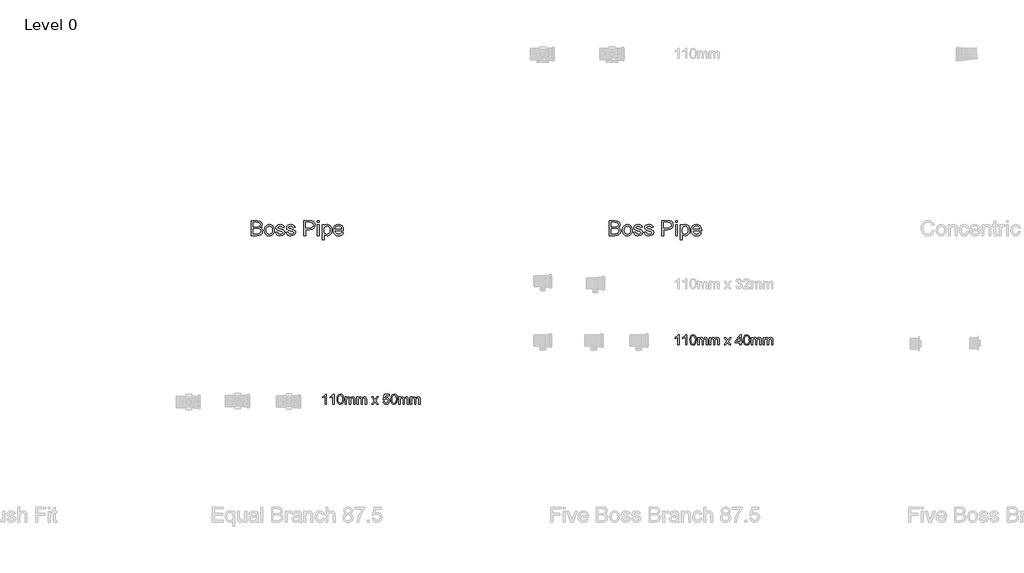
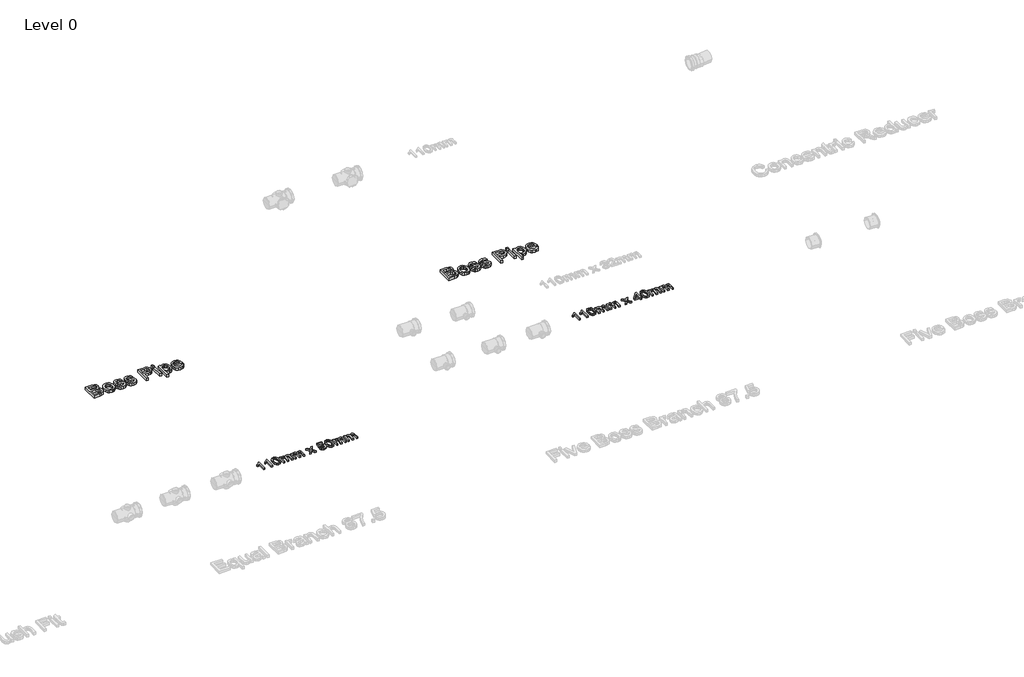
# One storey, part 13 of 23: 4 proxies.
"""IFC4 building model written with IfcOpenShell, lengths in millimetres."""

from ifc_helpers import new_model, si_unit, origin, origin_with_axes, place, context, project, spatial, polyline, outline, extrude, element, save

model = new_model("IFC4")

# Units and contexts
model_context = context("Model", 3, world=origin())
ifc_project = project(units=[si_unit("LENGTHUNIT", "METRE", prefix="MILLI")], contexts=[model_context])

# Site, building, storey
site = spatial("IfcSite", under=ifc_project)
building = spatial("IfcBuilding", under=site)
storey = spatial("IfcBuildingStorey", under=building, Name="Level 0", Elevation=0.0)

# Proxies
placement = place(None, origin())
element("IfcBuildingElementProxy", 1, Name="100mm Arial", ObjectType="100mm Arial", at=placement, inside=storey, context=model_context, shape_type="SweptSolid", body=[
    extrude(outline(polyline([(-13739.0370111, 4857.7167304), (-13751.3447034, 4857.7167304), (-13751.3447034, 4934.4474996), (-13763.0033572, 4926.1422111), (-13775.960088, 4919.9282688), (-13775.960088, 4931.5628842), (-13757.9192226, 4943.0773073), (-13746.9697034, 4956.1782688), (-13739.0370111, 4956.1782688), (-13739.0370111, 4857.7167304)])), origin_with_axes(), (0.0, 0.0, 1.0), 15.0),
    extrude(outline(polyline([(-13663.6523957, 4857.7167304), (-13675.960088, 4857.7167304), (-13675.960088, 4934.4474996), (-13687.6187418, 4926.1422111), (-13700.5754726, 4919.9282688), (-13700.5754726, 4931.5628842), (-13682.5346072, 4943.0773073), (-13671.585088, 4956.1782688), (-13663.6523957, 4956.1782688), (-13663.6523957, 4857.7167304)])), origin_with_axes(), (0.0, 0.0, 1.0), 15.0),
    extrude(outline(polyline([(-13634.4216264, 4906.1542304), (-13630.803838, 4934.4835573), (-13620.0586457, 4950.8176919), (-13602.1139341, 4956.1782688), (-13587.7389341, 4953.0051919), (-13577.8110495, 4943.8585573), (-13572.0418188, 4929.2912496), (-13569.8062418, 4906.1542304), (-13573.3879726, 4877.9450958), (-13584.0971072, 4861.5749035), (-13602.1139341, 4856.1782688), (-13614.9023957, 4858.5220188), (-13624.6139341, 4865.5532688), (-13631.9697034, 4882.2059131), (-13634.4216264, 4906.1542304)]), holes=[polyline([(-13622.1139341, 4906.1782688), (-13620.6716264, 4886.8182929), (-13616.3447034, 4875.613365), (-13609.9023957, 4870.2678121), (-13602.1139341, 4868.4859611), (-13594.3254726, 4870.2738217), (-13587.8831649, 4875.6374035), (-13583.5562418, 4886.848341), (-13582.1139341, 4906.1782688), (-13583.5081649, 4925.1025477), (-13587.6908572, 4936.394615), (-13594.1211457, 4942.0015861), (-13602.2581649, 4943.8705765), (-13609.9624918, 4942.2239419), (-13616.1523957, 4937.2840381), (-13620.6235495, 4925.2888458), (-13622.1139341, 4906.1782688)])]), origin_with_axes(), (0.0, 0.0, 1.0), 15.0),
    extrude(outline(polyline([(-13555.960088, 4857.7167304), (-13555.960088, 4930.0244227), (-13543.6523957, 4930.0244227), (-13543.6523957, 4918.1253842), (-13535.1908572, 4927.8729804), (-13523.147588, 4931.5628842), (-13510.8158572, 4927.800865), (-13504.0370111, 4917.2599996), (-13494.4336457, 4927.9871631), (-13482.3062418, 4931.5628842), (-13473.0544389, 4930.0755044), (-13466.2124918, 4925.613365), (-13461.9847274, 4918.0562736), (-13460.5754726, 4907.2840381), (-13460.5754726, 4857.7167304), (-13472.8831649, 4857.7167304), (-13472.8831649, 4901.9955765), (-13474.0249918, 4912.2720188), (-13478.1596072, 4917.332115), (-13485.1908572, 4919.2551919), (-13497.2942226, 4914.3273073), (-13502.1139341, 4898.5340381), (-13502.1139341, 4857.7167304), (-13514.4216264, 4857.7167304), (-13514.4216264, 4903.3657688), (-13517.2701841, 4915.2888458), (-13526.6091264, 4919.2551919), (-13535.7197034, 4916.6109611), (-13541.7773957, 4908.8705765), (-13543.6523957, 4894.1830765), (-13543.6523957, 4857.7167304), (-13555.960088, 4857.7167304)])), origin_with_axes(), (0.0, 0.0, 1.0), 15.0),
    extrude(outline(polyline([(-13442.1139341, 4857.7167304), (-13442.1139341, 4930.0244227), (-13429.8062418, 4930.0244227), (-13429.8062418, 4918.1253842), (-13421.3447034, 4927.8729804), (-13409.3014341, 4931.5628842), (-13396.9697034, 4927.800865), (-13390.1908572, 4917.2599996), (-13380.5874918, 4927.9871631), (-13368.460088, 4931.5628842), (-13359.2082851, 4930.0755044), (-13352.366338, 4925.613365), (-13348.1385736, 4918.0562736), (-13346.7293188, 4907.2840381), (-13346.7293188, 4857.7167304), (-13359.0370111, 4857.7167304), (-13359.0370111, 4901.9955765), (-13360.178838, 4912.2720188), (-13364.3134534, 4917.332115), (-13371.3447034, 4919.2551919), (-13383.4480688, 4914.3273073), (-13388.2677803, 4898.5340381), (-13388.2677803, 4857.7167304), (-13400.5754726, 4857.7167304), (-13400.5754726, 4903.3657688), (-13403.4240303, 4915.2888458), (-13412.7629726, 4919.2551919), (-13421.8735495, 4916.6109611), (-13427.9312418, 4908.8705765), (-13429.8062418, 4894.1830765), (-13429.8062418, 4857.7167304), (-13442.1139341, 4857.7167304)])), origin_with_axes(), (0.0, 0.0, 1.0), 15.0),
    extrude(outline(polyline([(-13297.4985495, 4857.7167304), (-13271.2004726, 4894.0628842), (-13295.960088, 4930.0244227), (-13281.1523957, 4930.0244227), (-13269.2052803, 4912.7167304), (-13263.6283572, 4904.5436535), (-13258.7966264, 4911.2263458), (-13245.1908572, 4930.0244227), (-13230.3831649, 4930.0244227), (-13256.3927803, 4894.0628842), (-13231.3447034, 4857.7167304), (-13246.1523957, 4857.7167304), (-13261.2245111, 4879.5676919), (-13263.9889341, 4883.5580765), (-13282.6908572, 4857.7167304), (-13297.4985495, 4857.7167304)])), origin_with_axes(), (0.0, 0.0, 1.0), 15.0),
    extrude(outline(polyline([(-13185.1908572, 4883.8705765), (-13172.8831649, 4885.4090381), (-13166.6812418, 4872.7287496), (-13153.8206649, 4868.4859611), (-13144.9985495, 4869.9613217), (-13138.3879726, 4874.3874035), (-13134.2593668, 4881.253389), (-13132.8831649, 4890.0484611), (-13138.0394149, 4904.6638458), (-13144.5147755, 4908.6842785), (-13153.6283572, 4910.0244227), (-13164.4336457, 4907.8849996), (-13171.3447034, 4902.332115), (-13183.6523957, 4903.8705765), (-13172.8831649, 4954.6398073), (-13125.1908572, 4954.6398073), (-13125.1908572, 4942.332115), (-13162.9312418, 4942.332115), (-13168.1956649, 4915.2167304), (-13159.4035976, 4920.5532688), (-13150.1908572, 4922.332115), (-13138.6914582, 4920.1265861), (-13129.1451841, 4913.5099996), (-13122.7179005, 4903.425865), (-13120.5754726, 4890.8176919), (-13122.5045591, 4878.5099996), (-13128.2918188, 4867.9811535), (-13139.3735495, 4859.12899), (-13153.8687418, 4856.1782688), (-13165.9570832, 4858.0743025), (-13175.5874918, 4863.7624035), (-13182.1890543, 4872.581514), (-13185.1908572, 4883.8705765)])), origin_with_axes(), (0.0, 0.0, 1.0), 15.0),
    extrude(outline(polyline([(-13109.8062418, 4906.1542304), (-13106.1884534, 4934.4835573), (-13095.4432611, 4950.8176919), (-13077.4985495, 4956.1782688), (-13063.1235495, 4953.0051919), (-13053.1956649, 4943.8585573), (-13047.4264341, 4929.2912496), (-13045.1908572, 4906.1542304), (-13048.772588, 4877.9450958), (-13059.4817226, 4861.5749035), (-13077.4985495, 4856.1782688), (-13090.2870111, 4858.5220188), (-13099.9985495, 4865.5532688), (-13107.3543188, 4882.2059131), (-13109.8062418, 4906.1542304)]), holes=[polyline([(-13097.4985495, 4906.1782688), (-13096.0562418, 4886.8182929), (-13091.7293188, 4875.613365), (-13085.2870111, 4870.2678121), (-13077.4985495, 4868.4859611), (-13069.710088, 4870.2738217), (-13063.2677803, 4875.6374035), (-13058.9408572, 4886.848341), (-13057.4985495, 4906.1782688), (-13058.8927803, 4925.1025477), (-13063.0754726, 4936.394615), (-13069.5057611, 4942.0015861), (-13077.6427803, 4943.8705765), (-13085.3471072, 4942.2239419), (-13091.5370111, 4937.2840381), (-13096.0081649, 4925.2888458), (-13097.4985495, 4906.1782688)])]), origin_with_axes(), (0.0, 0.0, 1.0), 15.0),
    extrude(outline(polyline([(-13031.3447034, 4857.7167304), (-13031.3447034, 4930.0244227), (-13019.0370111, 4930.0244227), (-13019.0370111, 4918.1253842), (-13010.5754726, 4927.8729804), (-12998.5322034, 4931.5628842), (-12986.2004726, 4927.800865), (-12979.4216264, 4917.2599996), (-12969.8182611, 4927.9871631), (-12957.6908572, 4931.5628842), (-12948.4390543, 4930.0755044), (-12941.5971072, 4925.613365), (-12937.3693428, 4918.0562736), (-12935.960088, 4907.2840381), (-12935.960088, 4857.7167304), (-12948.2677803, 4857.7167304), (-12948.2677803, 4901.9955765), (-12949.4096072, 4912.2720188), (-12953.5442226, 4917.332115), (-12960.5754726, 4919.2551919), (-12972.678838, 4914.3273073), (-12977.4985495, 4898.5340381), (-12977.4985495, 4857.7167304), (-12989.8062418, 4857.7167304), (-12989.8062418, 4903.3657688), (-12992.6547995, 4915.2888458), (-13001.9937418, 4919.2551919), (-13011.1043188, 4916.6109611), (-13017.1620111, 4908.8705765), (-13019.0370111, 4894.1830765), (-13019.0370111, 4857.7167304), (-13031.3447034, 4857.7167304)])), origin_with_axes(), (0.0, 0.0, 1.0), 15.0),
    extrude(outline(polyline([(-12917.4985495, 4857.7167304), (-12917.4985495, 4930.0244227), (-12905.1908572, 4930.0244227), (-12905.1908572, 4918.1253842), (-12896.7293188, 4927.8729804), (-12884.6860495, 4931.5628842), (-12872.3543188, 4927.800865), (-12865.5754726, 4917.2599996), (-12855.9721072, 4927.9871631), (-12843.8447034, 4931.5628842), (-12834.5929005, 4930.0755044), (-12827.7509534, 4925.613365), (-12823.5231889, 4918.0562736), (-12822.1139341, 4907.2840381), (-12822.1139341, 4857.7167304), (-12834.4216264, 4857.7167304), (-12834.4216264, 4901.9955765), (-12835.5634534, 4912.2720188), (-12839.6980688, 4917.332115), (-12846.7293188, 4919.2551919), (-12858.8326841, 4914.3273073), (-12863.6523957, 4898.5340381), (-12863.6523957, 4857.7167304), (-12875.960088, 4857.7167304), (-12875.960088, 4903.3657688), (-12878.8086457, 4915.2888458), (-12888.147588, 4919.2551919), (-12897.2581649, 4916.6109611), (-12903.3158572, 4908.8705765), (-12905.1908572, 4894.1830765), (-12905.1908572, 4857.7167304), (-12917.4985495, 4857.7167304)])), origin_with_axes(), (0.0, 0.0, 1.0), 15.0),
])
element("IfcBuildingElementProxy", 2, Name="100mm Arial", ObjectType="100mm Arial", at=placement, inside=storey, context=model_context, shape_type="SweptSolid", body=[
    extrude(outline(polyline([(-10291.7293188, 5437.7167304), (-10304.0370111, 5437.7167304), (-10304.0370111, 5514.4474996), (-10315.6956649, 5506.1422111), (-10328.6523957, 5499.9282688), (-10328.6523957, 5511.5628842), (-10310.6115303, 5523.0773073), (-10299.6620111, 5536.1782688), (-10291.7293188, 5536.1782688), (-10291.7293188, 5437.7167304)])), origin_with_axes(), (0.0, 0.0, 1.0), 15.0),
    extrude(outline(polyline([(-10216.3447034, 5437.7167304), (-10228.6523957, 5437.7167304), (-10228.6523957, 5514.4474996), (-10240.3110495, 5506.1422111), (-10253.2677803, 5499.9282688), (-10253.2677803, 5511.5628842), (-10235.2269149, 5523.0773073), (-10224.2773957, 5536.1782688), (-10216.3447034, 5536.1782688), (-10216.3447034, 5437.7167304)])), origin_with_axes(), (0.0, 0.0, 1.0), 15.0),
    extrude(outline(polyline([(-10187.1139341, 5486.1542304), (-10183.4961457, 5514.4835573), (-10172.7509534, 5530.8176919), (-10154.8062418, 5536.1782688), (-10140.4312418, 5533.0051919), (-10130.5033572, 5523.8585573), (-10124.7341264, 5509.2912496), (-10122.4985495, 5486.1542304), (-10126.0802803, 5457.9450958), (-10136.7894149, 5441.5749035), (-10154.8062418, 5436.1782688), (-10167.5947034, 5438.5220188), (-10177.3062418, 5445.5532688), (-10184.6620111, 5462.2059131), (-10187.1139341, 5486.1542304)]), holes=[polyline([(-10174.8062418, 5486.1782688), (-10173.3639341, 5466.8182929), (-10169.0370111, 5455.613365), (-10162.5947034, 5450.2678121), (-10154.8062418, 5448.4859611), (-10147.0177803, 5450.2738217), (-10140.5754726, 5455.6374035), (-10136.2485495, 5466.848341), (-10134.8062418, 5486.1782688), (-10136.2004726, 5505.1025477), (-10140.3831649, 5516.394615), (-10146.8134534, 5522.0015861), (-10154.9504726, 5523.8705765), (-10162.6547995, 5522.2239419), (-10168.8447034, 5517.2840381), (-10173.3158572, 5505.2888458), (-10174.8062418, 5486.1782688)])]), origin_with_axes(), (0.0, 0.0, 1.0), 15.0),
    extrude(outline(polyline([(-10108.6523957, 5437.7167304), (-10108.6523957, 5510.0244227), (-10096.3447034, 5510.0244227), (-10096.3447034, 5498.1253842), (-10087.8831649, 5507.8729804), (-10075.8398957, 5511.5628842), (-10063.5081649, 5507.800865), (-10056.7293188, 5497.2599996), (-10047.1259534, 5507.9871631), (-10034.9985495, 5511.5628842), (-10025.7467466, 5510.0755044), (-10018.9047995, 5505.613365), (-10014.6770351, 5498.0562736), (-10013.2677803, 5487.2840381), (-10013.2677803, 5437.7167304), (-10025.5754726, 5437.7167304), (-10025.5754726, 5481.9955765), (-10026.7172995, 5492.2720188), (-10030.8519149, 5497.332115), (-10037.8831649, 5499.2551919), (-10049.9865303, 5494.3273073), (-10054.8062418, 5478.5340381), (-10054.8062418, 5437.7167304), (-10067.1139341, 5437.7167304), (-10067.1139341, 5483.3657688), (-10069.9624918, 5495.2888458), (-10079.3014341, 5499.2551919), (-10088.4120111, 5496.6109611), (-10094.4697034, 5488.8705765), (-10096.3447034, 5474.1830765), (-10096.3447034, 5437.7167304), (-10108.6523957, 5437.7167304)])), origin_with_axes(), (0.0, 0.0, 1.0), 15.0),
    extrude(outline(polyline([(-9994.8062418, 5437.7167304), (-9994.8062418, 5510.0244227), (-9982.4985495, 5510.0244227), (-9982.4985495, 5498.1253842), (-9974.0370111, 5507.8729804), (-9961.9937418, 5511.5628842), (-9949.6620111, 5507.800865), (-9942.8831649, 5497.2599996), (-9933.2797995, 5507.9871631), (-9921.1523957, 5511.5628842), (-9911.9005928, 5510.0755044), (-9905.0586457, 5505.613365), (-9900.8308813, 5498.0562736), (-9899.4216264, 5487.2840381), (-9899.4216264, 5437.7167304), (-9911.7293188, 5437.7167304), (-9911.7293188, 5481.9955765), (-9912.8711457, 5492.2720188), (-9917.0057611, 5497.332115), (-9924.0370111, 5499.2551919), (-9936.1403764, 5494.3273073), (-9940.960088, 5478.5340381), (-9940.960088, 5437.7167304), (-9953.2677803, 5437.7167304), (-9953.2677803, 5483.3657688), (-9956.116338, 5495.2888458), (-9965.4552803, 5499.2551919), (-9974.5658572, 5496.6109611), (-9980.6235495, 5488.8705765), (-9982.4985495, 5474.1830765), (-9982.4985495, 5437.7167304), (-9994.8062418, 5437.7167304)])), origin_with_axes(), (0.0, 0.0, 1.0), 15.0),
    extrude(outline(polyline([(-9850.1908572, 5437.7167304), (-9823.8927803, 5474.0628842), (-9848.6523957, 5510.0244227), (-9833.8447034, 5510.0244227), (-9821.897588, 5492.7167304), (-9816.3206649, 5484.5436535), (-9811.4889341, 5491.2263458), (-9797.8831649, 5510.0244227), (-9783.0754726, 5510.0244227), (-9809.085088, 5474.0628842), (-9784.0370111, 5437.7167304), (-9798.8447034, 5437.7167304), (-9813.9168188, 5459.5676919), (-9816.6812418, 5463.5580765), (-9835.3831649, 5437.7167304), (-9850.1908572, 5437.7167304)])), origin_with_axes(), (0.0, 0.0, 1.0), 15.0),
    extrude(outline(polyline([(-9697.8831649, 5437.7167304), (-9697.8831649, 5460.7936535), (-9742.4985495, 5460.7936535), (-9742.4985495, 5473.1013458), (-9694.8062418, 5534.6398073), (-9685.5754726, 5534.6398073), (-9685.5754726, 5473.1013458), (-9673.2677803, 5473.1013458), (-9673.2677803, 5460.7936535), (-9685.5754726, 5460.7936535), (-9685.5754726, 5437.7167304), (-9697.8831649, 5437.7167304)]), holes=[polyline([(-9697.8831649, 5473.1013458), (-9697.8831649, 5511.1301919), (-9727.3543188, 5473.1013458), (-9697.8831649, 5473.1013458)])]), origin_with_axes(), (0.0, 0.0, 1.0), 15.0),
    extrude(outline(polyline([(-9662.4985495, 5486.1542304), (-9658.8807611, 5514.4835573), (-9648.1355688, 5530.8176919), (-9630.1908572, 5536.1782688), (-9615.8158572, 5533.0051919), (-9605.8879726, 5523.8585573), (-9600.1187418, 5509.2912496), (-9597.8831649, 5486.1542304), (-9601.4648957, 5457.9450958), (-9612.1740303, 5441.5749035), (-9630.1908572, 5436.1782688), (-9642.9793188, 5438.5220188), (-9652.6908572, 5445.5532688), (-9660.0466264, 5462.2059131), (-9662.4985495, 5486.1542304)]), holes=[polyline([(-9650.1908572, 5486.1782688), (-9648.7485495, 5466.8182929), (-9644.4216264, 5455.613365), (-9637.9793188, 5450.2678121), (-9630.1908572, 5448.4859611), (-9622.4023957, 5450.2738217), (-9615.960088, 5455.6374035), (-9611.6331649, 5466.848341), (-9610.1908572, 5486.1782688), (-9611.585088, 5505.1025477), (-9615.7677803, 5516.394615), (-9622.1980688, 5522.0015861), (-9630.335088, 5523.8705765), (-9638.0394149, 5522.2239419), (-9644.2293188, 5517.2840381), (-9648.7004726, 5505.2888458), (-9650.1908572, 5486.1782688)])]), origin_with_axes(), (0.0, 0.0, 1.0), 15.0),
    extrude(outline(polyline([(-9584.0370111, 5437.7167304), (-9584.0370111, 5510.0244227), (-9571.7293188, 5510.0244227), (-9571.7293188, 5498.1253842), (-9563.2677803, 5507.8729804), (-9551.2245111, 5511.5628842), (-9538.8927803, 5507.800865), (-9532.1139341, 5497.2599996), (-9522.5105688, 5507.9871631), (-9510.3831649, 5511.5628842), (-9501.131362, 5510.0755044), (-9494.2894149, 5505.613365), (-9490.0616505, 5498.0562736), (-9488.6523957, 5487.2840381), (-9488.6523957, 5437.7167304), (-9500.960088, 5437.7167304), (-9500.960088, 5481.9955765), (-9502.1019149, 5492.2720188), (-9506.2365303, 5497.332115), (-9513.2677803, 5499.2551919), (-9525.3711457, 5494.3273073), (-9530.1908572, 5478.5340381), (-9530.1908572, 5437.7167304), (-9542.4985495, 5437.7167304), (-9542.4985495, 5483.3657688), (-9545.3471072, 5495.2888458), (-9554.6860495, 5499.2551919), (-9563.7966264, 5496.6109611), (-9569.8543188, 5488.8705765), (-9571.7293188, 5474.1830765), (-9571.7293188, 5437.7167304), (-9584.0370111, 5437.7167304)])), origin_with_axes(), (0.0, 0.0, 1.0), 15.0),
    extrude(outline(polyline([(-9470.1908572, 5437.7167304), (-9470.1908572, 5510.0244227), (-9457.8831649, 5510.0244227), (-9457.8831649, 5498.1253842), (-9449.4216264, 5507.8729804), (-9437.3783572, 5511.5628842), (-9425.0466264, 5507.800865), (-9418.2677803, 5497.2599996), (-9408.6644149, 5507.9871631), (-9396.5370111, 5511.5628842), (-9387.2852082, 5510.0755044), (-9380.4432611, 5505.613365), (-9376.2154966, 5498.0562736), (-9374.8062418, 5487.2840381), (-9374.8062418, 5437.7167304), (-9387.1139341, 5437.7167304), (-9387.1139341, 5481.9955765), (-9388.2557611, 5492.2720188), (-9392.3903764, 5497.332115), (-9399.4216264, 5499.2551919), (-9411.5249918, 5494.3273073), (-9416.3447034, 5478.5340381), (-9416.3447034, 5437.7167304), (-9428.6523957, 5437.7167304), (-9428.6523957, 5483.3657688), (-9431.5009534, 5495.2888458), (-9440.8398957, 5499.2551919), (-9449.9504726, 5496.6109611), (-9456.0081649, 5488.8705765), (-9457.8831649, 5474.1830765), (-9457.8831649, 5437.7167304), (-9470.1908572, 5437.7167304)])), origin_with_axes(), (0.0, 0.0, 1.0), 15.0),
])
element("IfcBuildingElementProxy", 3, Name="150mm Arial", ObjectType="150mm Arial", at=placement, inside=storey, context=model_context, shape_type="SweptSolid", body=[
    extrude(outline(polyline([(-14474.4510666, 6505.2145219), (-14474.4510666, 6652.9068296), (-14418.0928935, 6652.9068296), (-14390.49073, 6648.5618777), (-14381.2148887, 6643.049558), (-14374.1926531, 6635.2025027), (-14368.2972204, 6616.3082719), (-14373.2551531, 6599.0546661), (-14388.2371243, 6585.9837527), (-14377.7758863, 6580.5210123), (-14370.0460185, 6572.2097142), (-14365.2728815, 6561.5997383), (-14363.6818358, 6549.2409642), (-14368.0267877, 6529.3912046), (-14378.7900089, 6515.2565892), (-14394.8537108, 6507.7565892), (-14418.5255858, 6505.2145219), (-14474.4510666, 6505.2145219)]), holes=[polyline([(-14455.9895281, 6523.6760604), (-14418.1289512, 6523.6760604), (-14404.4270281, 6524.3972142), (-14392.83448, 6528.4176469), (-14385.1541916, 6536.6207719), (-14382.1433743, 6549.0606758), (-14385.6770281, 6563.4116373), (-14397.1253454, 6571.9753392), (-14419.9318358, 6574.4452911), (-14455.9895281, 6574.4452911), (-14455.9895281, 6523.6760604)]), polyline([(-14455.9895281, 6592.9068296), (-14422.2755858, 6592.9068296), (-14402.5880858, 6594.4933681), (-14390.7431339, 6601.3263008), (-14386.7587589, 6613.3515411), (-14390.4727012, 6625.3948104), (-14401.1097204, 6632.5162046), (-14424.835682, 6634.4452911), (-14455.9895281, 6634.4452911), (-14455.9895281, 6592.9068296)])]), origin_with_axes(), (0.0, 0.0, 1.0), 25.0),
    extrude(outline(polyline([(-14345.2202973, 6559.4452911), (-14341.2269079, 6585.5961325), (-14329.2467397, 6603.9765411), (-14314.445057, 6612.9819498), (-14296.7227012, 6615.9837527), (-14277.3281699, 6612.3284041), (-14261.8368839, 6601.3623585), (-14251.6821363, 6583.9510003), (-14248.2972204, 6560.9597142), (-14249.7936147, 6542.3088729), (-14254.2827973, 6528.1111565), (-14261.6340594, 6517.4786445), (-14271.7166916, 6509.5234161), (-14283.6923526, 6504.5609762), (-14296.7227012, 6502.9068296), (-14316.3516074, 6506.5486565), (-14331.8248647, 6517.4741373), (-14341.8714392, 6535.2505796), (-14345.2202973, 6559.4452911)]), holes=[polyline([(-14326.7587589, 6559.4813488), (-14324.6223406, 6542.7731157), (-14318.2130858, 6530.86957), (-14308.5676531, 6523.7436686), (-14296.7227012, 6521.3683681), (-14284.9318358, 6523.7571902), (-14275.304432, 6530.9236565), (-14268.8951772, 6542.9849546), (-14266.7587589, 6560.0582719), (-14268.9086988, 6576.2797262), (-14275.3585185, 6588.0210123), (-14284.999444, 6595.1469137), (-14296.7227012, 6597.5222142), (-14308.5676531, 6595.1559282), (-14318.2130858, 6588.05707), (-14324.6223406, 6576.1805676), (-14326.7587589, 6559.4813488)])]), origin_with_axes(), (0.0, 0.0, 1.0), 25.0),
    extrude(outline(polyline([(-14234.4510666, 6537.5222142), (-14215.9895281, 6539.8299065), (-14213.0778695, 6531.9332719), (-14207.443855, 6526.1279835), (-14187.8645281, 6521.3683681), (-14169.0424127, 6525.7313488), (-14162.912605, 6535.9717335), (-14169.0784704, 6544.2650027), (-14188.0808743, 6549.5294258), (-14215.881355, 6558.5618777), (-14228.0147685, 6569.1087527), (-14232.1433743, 6584.0005796), (-14228.8260666, 6597.7565892), (-14219.7755858, 6608.2674065), (-14208.038807, 6613.7301469), (-14192.1553935, 6615.9837527), (-14169.6914512, 6612.3599546), (-14155.412605, 6602.5522623), (-14149.0664512, 6585.9837527), (-14167.5279897, 6583.6760604), (-14174.4690954, 6593.8623585), (-14190.7130858, 6597.5222142), (-14208.381355, 6594.0246181), (-14213.6818358, 6585.8755796), (-14211.4823166, 6580.5029835), (-14204.5952973, 6576.4284642), (-14188.693855, 6572.4981758), (-14161.5964993, 6563.8082719), (-14149.0123647, 6553.9645219), (-14144.4510666, 6537.9188488), (-14149.8056339, 6520.2505796), (-14165.256355, 6507.43207), (-14188.116932, 6502.9068296), (-14206.7317156, 6505.08832), (-14220.3164512, 6511.6327911), (-14229.3849608, 6522.4681277), (-14234.4510666, 6537.5222142)])), origin_with_axes(), (0.0, 0.0, 1.0), 25.0),
    extrude(outline(polyline([(-14130.6049127, 6537.5222142), (-14112.1433743, 6539.8299065), (-14109.2317156, 6531.9332719), (-14103.5977012, 6526.1279835), (-14084.0183743, 6521.3683681), (-14065.1962589, 6525.7313488), (-14059.0664512, 6535.9717335), (-14065.2323166, 6544.2650027), (-14084.2347204, 6549.5294258), (-14112.0352012, 6558.5618777), (-14124.1686147, 6569.1087527), (-14128.2972204, 6584.0005796), (-14124.9799127, 6597.7565892), (-14115.929432, 6608.2674065), (-14104.1926531, 6613.7301469), (-14088.3092397, 6615.9837527), (-14065.8452973, 6612.3599546), (-14051.5664512, 6602.5522623), (-14045.2202973, 6585.9837527), (-14063.6818358, 6583.6760604), (-14070.6229416, 6593.8623585), (-14086.866932, 6597.5222142), (-14104.5352012, 6594.0246181), (-14109.835682, 6585.8755796), (-14107.6361627, 6580.5029835), (-14100.7491435, 6576.4284642), (-14084.8477012, 6572.4981758), (-14057.7503454, 6563.8082719), (-14045.1662108, 6553.9645219), (-14040.6049127, 6537.9188488), (-14045.95948, 6520.2505796), (-14061.4102012, 6507.43207), (-14084.2707781, 6502.9068296), (-14102.8855618, 6505.08832), (-14116.4702973, 6511.6327911), (-14125.538807, 6522.4681277), (-14130.6049127, 6537.5222142)])), origin_with_axes(), (0.0, 0.0, 1.0), 25.0),
    extrude(outline(polyline([(-13959.835682, 6505.2145219), (-13959.835682, 6652.9068296), (-13905.100105, 6652.9068296), (-13883.0327973, 6651.5005796), (-13865.0940954, 6644.5955315), (-13853.4654897, 6630.3166854), (-13849.0664512, 6610.1784642), (-13852.0367036, 6592.7716133), (-13860.9474608, 6578.2674065), (-13877.6106219, 6568.4777431), (-13903.8380858, 6565.2145219), (-13941.3741435, 6565.2145219), (-13941.3741435, 6505.2145219), (-13959.835682, 6505.2145219)]), holes=[polyline([(-13941.3741435, 6583.6760604), (-13902.756355, 6583.6760604), (-13886.3861627, 6585.3707719), (-13875.568855, 6590.4549065), (-13869.538206, 6598.6129594), (-13867.5279897, 6609.5294258), (-13872.2695762, 6624.8178873), (-13884.7275089, 6633.1832719), (-13903.1890473, 6634.4452911), (-13941.3741435, 6634.4452911), (-13941.3741435, 6583.6760604)])]), origin_with_axes(), (0.0, 0.0, 1.0), 25.0),
    extrude(outline(polyline([(-13825.9895281, 6634.4452911), (-13825.9895281, 6652.9068296), (-13807.5279897, 6652.9068296), (-13807.5279897, 6634.4452911), (-13825.9895281, 6634.4452911)])), origin_with_axes(), (0.0, 0.0, 1.0), 25.0),
    extrude(outline(polyline([(-13825.9895281, 6505.2145219), (-13825.9895281, 6613.6760604), (-13807.5279897, 6613.6760604), (-13807.5279897, 6505.2145219), (-13825.9895281, 6505.2145219)])), origin_with_axes(), (0.0, 0.0, 1.0), 25.0),
    extrude(outline(polyline([(-13779.835682, 6463.6760604), (-13779.835682, 6613.6760604), (-13761.3741435, 6613.6760604), (-13761.3741435, 6595.5750988), (-13748.6097204, 6610.8815892), (-13731.3741435, 6615.9837527), (-13718.8891675, 6614.1988969), (-13707.9727012, 6608.8443296), (-13699.08448, 6600.24457), (-13692.6842397, 6588.7241373), (-13687.5279897, 6560.2746181), (-13688.983819, 6544.4858561), (-13693.351307, 6530.3647623), (-13700.49073, 6518.6279835), (-13710.2623647, 6509.9921661), (-13721.6430738, 6504.6781637), (-13733.6097204, 6502.9068296), (-13749.6734223, 6507.6484161), (-13761.3741435, 6519.6375988), (-13761.3741435, 6463.6760604), (-13779.835682, 6463.6760604)]), holes=[polyline([(-13761.3741435, 6558.5799065), (-13759.3774488, 6542.0294258), (-13753.3873647, 6530.4549065), (-13744.5487228, 6523.6400027), (-13734.006355, 6521.3683681), (-13723.2927132, 6523.7211325), (-13714.2287108, 6530.7794258), (-13708.0493238, 6542.7776229), (-13705.9895281, 6559.9500988), (-13707.9997445, 6576.4104354), (-13714.0303935, 6588.1472142), (-13722.8555137, 6595.1784642), (-13733.2491435, 6597.5222142), (-13743.6833382, 6595.0297262), (-13752.8464993, 6587.5522623), (-13759.2422324, 6575.3241974), (-13761.3741435, 6558.5799065)])]), origin_with_axes(), (0.0, 0.0, 1.0), 25.0),
    extrude(outline(polyline([(-13590.8212589, 6537.5222142), (-13572.7202973, 6535.2145219), (-13579.2422324, 6521.5756998), (-13589.6493839, 6511.3803873), (-13603.7073767, 6505.025219), (-13621.1818358, 6502.9068296), (-13642.8434945, 6506.5621782), (-13659.5111627, 6517.5282238), (-13670.1391675, 6535.0928272), (-13673.6818358, 6558.5438488), (-13670.1031098, 6582.7836325), (-13659.366932, 6600.9116373), (-13642.9246243, 6612.2157238), (-13622.2275089, 6615.9837527), (-13602.1749247, 6612.2247383), (-13586.1517877, 6600.947695), (-13575.6454776, 6582.8557479), (-13572.1433743, 6558.6520219), (-13572.2515473, 6553.6760604), (-13655.2202973, 6553.6760604), (-13652.0246844, 6539.8569498), (-13644.601307, 6529.697695), (-13633.8876651, 6523.4506998), (-13620.8212589, 6521.3683681), (-13602.7202973, 6525.2265411), (-13590.8212589, 6537.5222142)]), holes=[polyline([(-13655.2202973, 6572.1375988), (-13590.6049127, 6572.1375988), (-13593.1019079, 6581.8912046), (-13597.9967397, 6588.8683681), (-13608.7599608, 6595.3587527), (-13622.2996243, 6597.5222142), (-13634.7440353, 6595.7959522), (-13645.0339993, 6590.6171661), (-13652.186944, 6582.5447503), (-13655.2202973, 6572.1375988)])]), origin_with_axes(), (0.0, 0.0, 1.0), 25.0),
])
element("IfcBuildingElementProxy", 4, Name="150mm Arial", ObjectType="150mm Arial", at=placement, inside=storey, context=model_context, shape_type="SweptSolid", body=[
    extrude(outline(polyline([(-10974.4510666, 6505.2145219), (-10974.4510666, 6652.9068296), (-10918.0928935, 6652.9068296), (-10890.49073, 6648.5618777), (-10881.2148887, 6643.049558), (-10874.1926531, 6635.2025027), (-10868.2972204, 6616.3082719), (-10873.2551531, 6599.0546661), (-10888.2371243, 6585.9837527), (-10877.7758863, 6580.5210123), (-10870.0460185, 6572.2097142), (-10865.2728815, 6561.5997383), (-10863.6818358, 6549.2409642), (-10868.0267877, 6529.3912046), (-10878.7900089, 6515.2565892), (-10894.8537108, 6507.7565892), (-10918.5255858, 6505.2145219), (-10974.4510666, 6505.2145219)]), holes=[polyline([(-10955.9895281, 6523.6760604), (-10918.1289512, 6523.6760604), (-10904.4270281, 6524.3972142), (-10892.83448, 6528.4176469), (-10885.1541916, 6536.6207719), (-10882.1433743, 6549.0606758), (-10885.6770281, 6563.4116373), (-10897.1253454, 6571.9753392), (-10919.9318358, 6574.4452911), (-10955.9895281, 6574.4452911), (-10955.9895281, 6523.6760604)]), polyline([(-10955.9895281, 6592.9068296), (-10922.2755858, 6592.9068296), (-10902.5880858, 6594.4933681), (-10890.7431339, 6601.3263008), (-10886.7587589, 6613.3515411), (-10890.4727012, 6625.3948104), (-10901.1097204, 6632.5162046), (-10924.835682, 6634.4452911), (-10955.9895281, 6634.4452911), (-10955.9895281, 6592.9068296)])]), origin_with_axes(), (0.0, 0.0, 1.0), 25.0),
    extrude(outline(polyline([(-10845.2202973, 6559.4452911), (-10841.2269079, 6585.5961325), (-10829.2467397, 6603.9765411), (-10814.445057, 6612.9819498), (-10796.7227012, 6615.9837527), (-10777.3281699, 6612.3284041), (-10761.8368839, 6601.3623585), (-10751.6821363, 6583.9510003), (-10748.2972204, 6560.9597142), (-10749.7936147, 6542.3088729), (-10754.2827973, 6528.1111565), (-10761.6340594, 6517.4786445), (-10771.7166916, 6509.5234161), (-10783.6923526, 6504.5609762), (-10796.7227012, 6502.9068296), (-10816.3516074, 6506.5486565), (-10831.8248647, 6517.4741373), (-10841.8714392, 6535.2505796), (-10845.2202973, 6559.4452911)]), holes=[polyline([(-10826.7587589, 6559.4813488), (-10824.6223406, 6542.7731157), (-10818.2130858, 6530.86957), (-10808.5676531, 6523.7436686), (-10796.7227012, 6521.3683681), (-10784.9318358, 6523.7571902), (-10775.304432, 6530.9236565), (-10768.8951772, 6542.9849546), (-10766.7587589, 6560.0582719), (-10768.9086988, 6576.2797262), (-10775.3585185, 6588.0210123), (-10784.999444, 6595.1469137), (-10796.7227012, 6597.5222142), (-10808.5676531, 6595.1559282), (-10818.2130858, 6588.05707), (-10824.6223406, 6576.1805676), (-10826.7587589, 6559.4813488)])]), origin_with_axes(), (0.0, 0.0, 1.0), 25.0),
    extrude(outline(polyline([(-10734.4510666, 6537.5222142), (-10715.9895281, 6539.8299065), (-10713.0778695, 6531.9332719), (-10707.443855, 6526.1279835), (-10687.8645281, 6521.3683681), (-10669.0424127, 6525.7313488), (-10662.912605, 6535.9717335), (-10669.0784704, 6544.2650027), (-10688.0808743, 6549.5294258), (-10715.881355, 6558.5618777), (-10728.0147685, 6569.1087527), (-10732.1433743, 6584.0005796), (-10728.8260666, 6597.7565892), (-10719.7755858, 6608.2674065), (-10708.038807, 6613.7301469), (-10692.1553935, 6615.9837527), (-10669.6914512, 6612.3599546), (-10655.412605, 6602.5522623), (-10649.0664512, 6585.9837527), (-10667.5279897, 6583.6760604), (-10674.4690954, 6593.8623585), (-10690.7130858, 6597.5222142), (-10708.381355, 6594.0246181), (-10713.6818358, 6585.8755796), (-10711.4823166, 6580.5029835), (-10704.5952973, 6576.4284642), (-10688.693855, 6572.4981758), (-10661.5964993, 6563.8082719), (-10649.0123647, 6553.9645219), (-10644.4510666, 6537.9188488), (-10649.8056339, 6520.2505796), (-10665.256355, 6507.43207), (-10688.116932, 6502.9068296), (-10706.7317156, 6505.08832), (-10720.3164512, 6511.6327911), (-10729.3849608, 6522.4681277), (-10734.4510666, 6537.5222142)])), origin_with_axes(), (0.0, 0.0, 1.0), 25.0),
    extrude(outline(polyline([(-10630.6049127, 6537.5222142), (-10612.1433743, 6539.8299065), (-10609.2317156, 6531.9332719), (-10603.5977012, 6526.1279835), (-10584.0183743, 6521.3683681), (-10565.1962589, 6525.7313488), (-10559.0664512, 6535.9717335), (-10565.2323166, 6544.2650027), (-10584.2347204, 6549.5294258), (-10612.0352012, 6558.5618777), (-10624.1686147, 6569.1087527), (-10628.2972204, 6584.0005796), (-10624.9799127, 6597.7565892), (-10615.929432, 6608.2674065), (-10604.1926531, 6613.7301469), (-10588.3092397, 6615.9837527), (-10565.8452973, 6612.3599546), (-10551.5664512, 6602.5522623), (-10545.2202973, 6585.9837527), (-10563.6818358, 6583.6760604), (-10570.6229416, 6593.8623585), (-10586.866932, 6597.5222142), (-10604.5352012, 6594.0246181), (-10609.835682, 6585.8755796), (-10607.6361627, 6580.5029835), (-10600.7491435, 6576.4284642), (-10584.8477012, 6572.4981758), (-10557.7503454, 6563.8082719), (-10545.1662108, 6553.9645219), (-10540.6049127, 6537.9188488), (-10545.95948, 6520.2505796), (-10561.4102012, 6507.43207), (-10584.2707781, 6502.9068296), (-10602.8855618, 6505.08832), (-10616.4702973, 6511.6327911), (-10625.538807, 6522.4681277), (-10630.6049127, 6537.5222142)])), origin_with_axes(), (0.0, 0.0, 1.0), 25.0),
    extrude(outline(polyline([(-10459.835682, 6505.2145219), (-10459.835682, 6652.9068296), (-10405.100105, 6652.9068296), (-10383.0327973, 6651.5005796), (-10365.0940954, 6644.5955315), (-10353.4654897, 6630.3166854), (-10349.0664512, 6610.1784642), (-10352.0367036, 6592.7716133), (-10360.9474608, 6578.2674065), (-10377.6106219, 6568.4777431), (-10403.8380858, 6565.2145219), (-10441.3741435, 6565.2145219), (-10441.3741435, 6505.2145219), (-10459.835682, 6505.2145219)]), holes=[polyline([(-10441.3741435, 6583.6760604), (-10402.756355, 6583.6760604), (-10386.3861627, 6585.3707719), (-10375.568855, 6590.4549065), (-10369.538206, 6598.6129594), (-10367.5279897, 6609.5294258), (-10372.2695762, 6624.8178873), (-10384.7275089, 6633.1832719), (-10403.1890473, 6634.4452911), (-10441.3741435, 6634.4452911), (-10441.3741435, 6583.6760604)])]), origin_with_axes(), (0.0, 0.0, 1.0), 25.0),
    extrude(outline(polyline([(-10325.9895281, 6634.4452911), (-10325.9895281, 6652.9068296), (-10307.5279897, 6652.9068296), (-10307.5279897, 6634.4452911), (-10325.9895281, 6634.4452911)])), origin_with_axes(), (0.0, 0.0, 1.0), 25.0),
    extrude(outline(polyline([(-10325.9895281, 6505.2145219), (-10325.9895281, 6613.6760604), (-10307.5279897, 6613.6760604), (-10307.5279897, 6505.2145219), (-10325.9895281, 6505.2145219)])), origin_with_axes(), (0.0, 0.0, 1.0), 25.0),
    extrude(outline(polyline([(-10279.835682, 6463.6760604), (-10279.835682, 6613.6760604), (-10261.3741435, 6613.6760604), (-10261.3741435, 6595.5750988), (-10248.6097204, 6610.8815892), (-10231.3741435, 6615.9837527), (-10218.8891675, 6614.1988969), (-10207.9727012, 6608.8443296), (-10199.08448, 6600.24457), (-10192.6842397, 6588.7241373), (-10187.5279897, 6560.2746181), (-10188.983819, 6544.4858561), (-10193.351307, 6530.3647623), (-10200.49073, 6518.6279835), (-10210.2623647, 6509.9921661), (-10221.6430738, 6504.6781637), (-10233.6097204, 6502.9068296), (-10249.6734223, 6507.6484161), (-10261.3741435, 6519.6375988), (-10261.3741435, 6463.6760604), (-10279.835682, 6463.6760604)]), holes=[polyline([(-10261.3741435, 6558.5799065), (-10259.3774488, 6542.0294258), (-10253.3873647, 6530.4549065), (-10244.5487228, 6523.6400027), (-10234.006355, 6521.3683681), (-10223.2927132, 6523.7211325), (-10214.2287108, 6530.7794258), (-10208.0493238, 6542.7776229), (-10205.9895281, 6559.9500988), (-10207.9997445, 6576.4104354), (-10214.0303935, 6588.1472142), (-10222.8555137, 6595.1784642), (-10233.2491435, 6597.5222142), (-10243.6833382, 6595.0297262), (-10252.8464993, 6587.5522623), (-10259.2422324, 6575.3241974), (-10261.3741435, 6558.5799065)])]), origin_with_axes(), (0.0, 0.0, 1.0), 25.0),
    extrude(outline(polyline([(-10090.8212589, 6537.5222142), (-10072.7202973, 6535.2145219), (-10079.2422324, 6521.5756998), (-10089.6493839, 6511.3803873), (-10103.7073767, 6505.025219), (-10121.1818358, 6502.9068296), (-10142.8434945, 6506.5621782), (-10159.5111627, 6517.5282238), (-10170.1391675, 6535.0928272), (-10173.6818358, 6558.5438488), (-10170.1031098, 6582.7836325), (-10159.366932, 6600.9116373), (-10142.9246243, 6612.2157238), (-10122.2275089, 6615.9837527), (-10102.1749247, 6612.2247383), (-10086.1517877, 6600.947695), (-10075.6454776, 6582.8557479), (-10072.1433743, 6558.6520219), (-10072.2515473, 6553.6760604), (-10155.2202973, 6553.6760604), (-10152.0246844, 6539.8569498), (-10144.601307, 6529.697695), (-10133.8876651, 6523.4506998), (-10120.8212589, 6521.3683681), (-10102.7202973, 6525.2265411), (-10090.8212589, 6537.5222142)]), holes=[polyline([(-10155.2202973, 6572.1375988), (-10090.6049127, 6572.1375988), (-10093.1019079, 6581.8912046), (-10097.9967397, 6588.8683681), (-10108.7599608, 6595.3587527), (-10122.2996243, 6597.5222142), (-10134.7440353, 6595.7959522), (-10145.0339993, 6590.6171661), (-10152.186944, 6582.5447503), (-10155.2202973, 6572.1375988)])]), origin_with_axes(), (0.0, 0.0, 1.0), 25.0),
])

save(model, "model.ifc")
